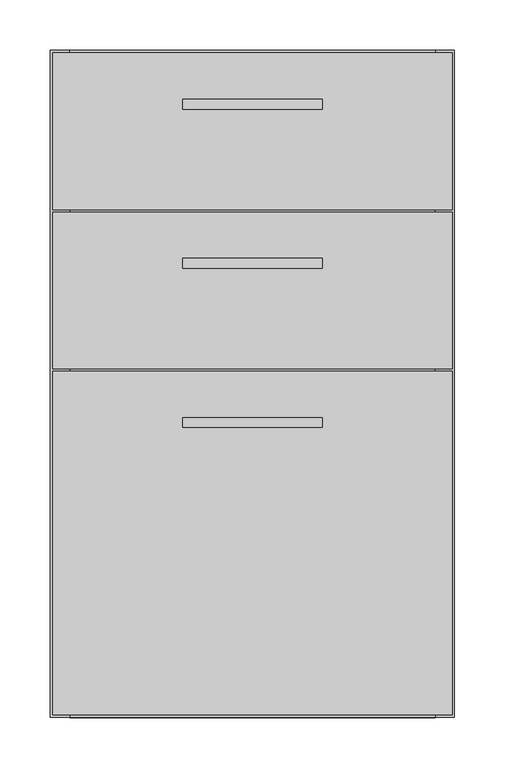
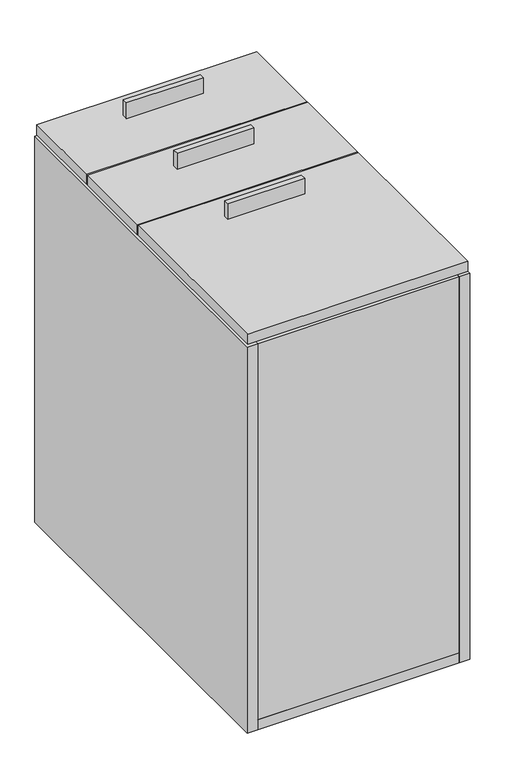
"""IFC4 building model written with IfcOpenShell, lengths in millimetres: proxy geometry, FOUNDATION^PEDESTAL_LETTER BBF 26x29.75D-SOLID ASSEMBLY."""

import ifcopenshell
import ifcopenshell.guid

model = None  # the IFC model being written
_history = None  # IfcOwnerHistory: only IFC2X3 demands one
_inside = {}  # id of a spatial element -> (the spatial element, [elements in it])
_under = {}  # id of a project, library or spatial element -> (it, [spatial elements below it])
_declared = {}  # id of a project -> (the project, [libraries it declares])
_typed = {}  # id of a type object -> (the type object, [elements of that type])
_made_of = {}  # id of a material, layer set ... -> (it, [elements and type objects made of it])


def new_model(schema):
    """Start an empty IFC model of exactly this schema.

    Asked for "IFC4X3", IfcOpenShell would pick the latest addendum, in which some entities
    have other attributes; the version numbers below select the first issue.
    IFC2X3 requires an IfcOwnerHistory on every rooted entity: one is made here for all.
    """
    global model, _history
    if schema == "IFC4X3":
        model = ifcopenshell.file(schema_version=(4, 3, 0, 0))
    else:
        model = ifcopenshell.file(schema=schema)
    _inside.clear()
    _under.clear()
    _declared.clear()
    _typed.clear()
    _made_of.clear()
    _history = None
    if model.schema == "IFC2X3":
        org = make("IfcOrganization", Name="unknown")
        user = make(
            "IfcPersonAndOrganization",
            ThePerson=make("IfcPerson", FamilyName="unknown"),
            TheOrganization=org,
        )
        app = make(
            "IfcApplication",
            ApplicationDeveloper=org,
            Version="unknown",
            ApplicationFullName="unknown",
            ApplicationIdentifier="unknown",
        )
        _history = make(
            "IfcOwnerHistory",
            OwningUser=user,
            OwningApplication=app,
            ChangeAction="ADDED",
            CreationDate=0,
        )
    return model


def make(cls, **values):
    """One entity of the class cls with the attributes given. An attribute that is None is left unset."""
    return model.create_entity(
        cls, **{name: value for name, value in values.items() if value is not None}
    )


def rooted(cls, **values):
    """An entity with a GlobalId (a new one), such as an element, a storey or a relation."""
    return make(cls, GlobalId=ifcopenshell.guid.new(), OwnerHistory=_history, **values)


def si_unit(unit_type, name, prefix=None):
    """IfcSIUnit, for example si_unit("LENGTHUNIT", "METRE", prefix="MILLI")."""
    return make("IfcSIUnit", UnitType=unit_type, Prefix=prefix, Name=name)


def assignment(units):
    """IfcUnitAssignment: the units of a project."""
    return None if units is None else make("IfcUnitAssignment", Units=units)


def point(xyz):
    """IfcCartesianPoint."""
    return None if xyz is None else make("IfcCartesianPoint", Coordinates=xyz)


def direction(xyz):
    """IfcDirection."""
    return None if xyz is None else make("IfcDirection", DirectionRatios=xyz)


def frame(location, z_axis=None, x_axis=None):
    """IfcAxis2Placement3D, a coordinate frame: its origin and axes. An axis left out is left unset."""
    return make(
        "IfcAxis2Placement3D",
        Location=point(location),
        Axis=direction(z_axis),
        RefDirection=direction(x_axis),
    )


def origin():
    """The frame at (0, 0, 0) with its axes left unset."""
    return frame((0.0, 0.0, 0.0))


def origin_with_axes():
    """The frame at (0, 0, 0) with the z axis (0, 0, 1) and the x axis (1, 0, 0) written out."""
    return frame((0.0, 0.0, 0.0), z_axis=(0.0, 0.0, 1.0), x_axis=(1.0, 0.0, 0.0))


def place(relative_to, where):
    """IfcLocalPlacement: puts the frame where relative to a parent placement (None: the world)."""
    return make(
        "IfcLocalPlacement", PlacementRelTo=relative_to, RelativePlacement=where
    )


def context(
    kind, dimensions, precision=None, world=None, true_north=None, identifier=None
):
    """IfcGeometricRepresentationContext, for example the 3D "Model" context."""
    return make(
        "IfcGeometricRepresentationContext",
        ContextIdentifier=identifier,
        ContextType=kind,
        CoordinateSpaceDimension=dimensions,
        Precision=precision,
        WorldCoordinateSystem=world,
        TrueNorth=true_north,
    )


def project(units=None, contexts=None):
    """IfcProject with its units and contexts."""
    return rooted(
        "IfcProject",
        Name="project",
        RepresentationContexts=contexts,
        UnitsInContext=assignment(units),
    )


def spatial(cls, under=None, at=None, **own):
    """A site, building, storey or space (cls), placed at a placement, below another one or the project."""
    s = rooted(cls, ObjectPlacement=at, **own)
    if under is not None:
        _under.setdefault(under.id(), (under, []))[1].append(s)
    return s


def polyline(points):
    """IfcPolyline through the points."""
    return make("IfcPolyline", Points=[point(p) for p in points])


def outline(outer, holes=None, kind="AREA"):
    """IfcArbitraryClosedProfileDef: a profile drawn as a closed curve; with holes, ...WithVoids."""
    if holes is None:
        return make("IfcArbitraryClosedProfileDef", ProfileType=kind, OuterCurve=outer)
    return make(
        "IfcArbitraryProfileDefWithVoids",
        ProfileType=kind,
        OuterCurve=outer,
        InnerCurves=holes,
    )


def extrude(swept, where, along, depth):
    """IfcExtrudedAreaSolid: the profile swept, set in the frame where, extruded along a direction by depth."""
    return make(
        "IfcExtrudedAreaSolid",
        SweptArea=swept,
        Position=where,
        ExtrudedDirection=direction(along),
        Depth=depth,
    )


def shape(context_of_items, identifier, shape_type, items):
    """IfcShapeRepresentation: the items that make up one representation, for example the "Body"."""
    return make(
        "IfcShapeRepresentation",
        ContextOfItems=context_of_items,
        RepresentationIdentifier=identifier,
        RepresentationType=shape_type,
        Items=items,
    )


def source(mapping_origin, context_of_items, identifier, shape_type, items):
    """IfcRepresentationMap: a shape defined once, which mapped items show again and again."""
    return make(
        "IfcRepresentationMap",
        MappingOrigin=mapping_origin,
        MappedRepresentation=shape(context_of_items, identifier, shape_type, items),
    )


def transform(
    local_origin,
    x_axis=None,
    y_axis=None,
    z_axis=None,
    scale=None,
    scale2=None,
    scale3=None,
    uniform=True,
):
    """IfcCartesianTransformationOperator3D, or its non-uniform kind. x_axis, y_axis, z_axis: its Axis1, 2, 3."""
    if uniform:
        return make(
            "IfcCartesianTransformationOperator3D",
            Axis1=direction(x_axis),
            Axis2=direction(y_axis),
            LocalOrigin=point(local_origin),
            Scale=scale,
            Axis3=direction(z_axis),
        )
    return make(
        "IfcCartesianTransformationOperator3DnonUniform",
        Axis1=direction(x_axis),
        Axis2=direction(y_axis),
        LocalOrigin=point(local_origin),
        Scale=scale,
        Axis3=direction(z_axis),
        Scale2=scale2,
        Scale3=scale3,
    )


def mapped(mapping_source, mapping_target):
    """IfcMappedItem: shows the shape of a source again, moved by a transform."""
    return make(
        "IfcMappedItem", MappingSource=mapping_source, MappingTarget=mapping_target
    )


def made_of(thing, what):
    """Note that an element or type object is made of a material, layer set ...; save() writes the relation."""
    if what is not None:
        _made_of.setdefault(what.id(), (what, []))[1].append(thing)
    return thing


def element(
    cls,
    number,
    at=None,
    inside=None,
    cuts=None,
    type_object=None,
    material=None,
    context=None,
    identifier="Body",
    shape_type=None,
    held_by="IfcProductDefinitionShape",
    body=None,
    shapes=None,
    **own,
):
    """One element of the class cls, such as IfcWall. Its Tag is "e" and its number.

    at: its placement. inside: the storey or other place that contains it. cuts: it is an
    opening in that element (IfcRelVoidsElement). A single representation is given by context,
    identifier, shape_type and body (its items); several are given by shapes. held_by: the class
    of the entity that holds the representations. save() writes the other relations.
    """
    e = rooted(cls, Tag="e%d" % number, ObjectPlacement=at, **own)
    if body is not None:
        shapes = [shape(context, identifier, shape_type, body)]
    if shapes is not None:
        e.Representation = make(held_by, Representations=shapes)
    if inside is not None:
        _inside.setdefault(inside.id(), (inside, []))[1].append(e)
    if cuts is not None:
        rooted(
            "IfcRelVoidsElement", RelatingBuildingElement=cuts, RelatedOpeningElement=e
        )
    if type_object is not None:
        _typed.setdefault(type_object.id(), (type_object, []))[1].append(e)
    return made_of(e, material)


def aggregate(whole, parts):
    """IfcRelAggregates: a whole, such as a stair, and the parts it consists of."""
    return rooted("IfcRelAggregates", RelatingObject=whole, RelatedObjects=parts)


def save(model, path):
    """Write the relations noted so far, then the file.

    IfcRelAggregates (storeys below a building ...), IfcRelContainedInSpatialStructure (elements
    in a storey), IfcRelDefinesByType, IfcRelAssociatesMaterial and IfcRelDeclares: one each for
    every whole, place, type object, material and project.
    """
    for whole, parts in _under.values():
        aggregate(whole, parts)
    for where, things in _inside.values():
        rooted(
            "IfcRelContainedInSpatialStructure",
            RelatedElements=things,
            RelatingStructure=where,
        )
    for kind, things in _typed.values():
        rooted("IfcRelDefinesByType", RelatedObjects=things, RelatingType=kind)
    for what, things in _made_of.values():
        rooted("IfcRelAssociatesMaterial", RelatedObjects=things, RelatingMaterial=what)
    for by, libraries in _declared.values():
        rooted("IfcRelDeclares", RelatingContext=by, RelatedDefinitions=libraries)
    model.write(path)


def generic_models_754e1a55(model_context):
    return source(origin(), model_context, "Body", "SweptSolid", [
        extrude(outline(polyline([(269.08125, 444.896875), (130.96875, 444.896875), (130.96875, 454.421875), (269.08125, 454.421875), (269.08125, 444.896875)])), frame((0.0, 0.0, 755.65), z_axis=(0.0, 0.0, 1.0), x_axis=(1.0, 0.0, 0.0)), (0.0, 0.0, 1.0), 30.1625),
        extrude(outline(polyline([(19.05, 641.35), (19.05, 660.4), (381.0, 660.4), (381.0, 641.35), (19.05, 641.35)])), frame((0.0, 0.0, 19.05), z_axis=(0.0, 0.0, 1.0), x_axis=(1.0, 0.0, 0.0)), (0.0, 0.0, 1.0), 714.375),
        extrude(outline(polyline([(19.05, 660.4), (19.05, 0.0), (0.0, 0.0), (0.0, 660.4), (19.05, 660.4)])), origin_with_axes(), (0.0, 0.0, 1.0), 733.425),
        extrude(outline(polyline([(397.66875, 502.840625), (2.38125, 502.840625), (2.38125, 658.01875), (397.66875, 658.01875), (397.66875, 502.840625)])), frame((0.0, 0.0, 736.6), z_axis=(0.0, 0.0, 1.0), x_axis=(1.0, 0.0, 0.0)), (0.0, 0.0, 1.0), 19.05),
        extrude(outline(polyline([(2.38125, 500.459375), (397.66875, 500.459375), (397.66875, 345.28125), (2.38125, 345.28125), (2.38125, 500.459375)])), frame((0.0, 0.0, 736.6), z_axis=(0.0, 0.0, 1.0), x_axis=(1.0, 0.0, 0.0)), (0.0, 0.0, 1.0), 19.05),
        extrude(outline(polyline([(381.0, 25.4), (381.0, 0.0), (19.05, 0.0), (19.05, 25.4), (381.0, 25.4)])), frame((0.0, 0.0, 19.05), z_axis=(0.0, 0.0, 1.0), x_axis=(1.0, 0.0, 0.0)), (0.0, 0.0, 1.0), 714.375),
        extrude(outline(polyline([(2.38125, 2.38125), (2.38125, 342.9), (397.66875, 342.9), (397.66875, 2.38125), (2.38125, 2.38125)])), frame((0.0, 0.0, 736.6), z_axis=(0.0, 0.0, 1.0), x_axis=(1.0, 0.0, 0.0)), (0.0, 0.0, 1.0), 19.05),
        extrude(outline(polyline([(381.0, 660.4), (381.0, 0.0), (19.05, 0.0), (19.05, 660.4), (381.0, 660.4)])), origin_with_axes(), (0.0, 0.0, 1.0), 19.05),
        extrude(outline(polyline([(381.0, 0.0), (381.0, 660.4), (400.05, 660.4), (400.05, 0.0), (381.0, 0.0)])), origin_with_axes(), (0.0, 0.0, 1.0), 733.425),
        extrude(outline(polyline([(269.08125, 602.45625), (130.96875, 602.45625), (130.96875, 611.98125), (269.08125, 611.98125), (269.08125, 602.45625)])), frame((0.0, 0.0, 755.65), z_axis=(0.0, 0.0, 1.0), x_axis=(1.0, 0.0, 0.0)), (0.0, 0.0, 1.0), 30.1625),
        extrude(outline(polyline([(269.08125, 287.3375), (130.96875, 287.3375), (130.96875, 296.8625), (269.08125, 296.8625), (269.08125, 287.3375)])), frame((0.0, 0.0, 755.65), z_axis=(0.0, 0.0, 1.0), x_axis=(1.0, 0.0, 0.0)), (0.0, 0.0, 1.0), 30.1625),
    ])


if __name__ == "__main__":
    model = new_model("IFC4")
    model_context = context("Model", 3, world=origin())
    ifc_project = project(units=[si_unit("LENGTHUNIT", "METRE", prefix="MILLI")], contexts=[model_context])
    site = spatial("IfcSite", under=ifc_project)
    building = spatial("IfcBuilding", under=site)
    placement = place(None, origin())
    generic_models_shape = generic_models_754e1a55(model_context)
    element("IfcBuildingElementProxy", 1, Name="FOUNDATION^PEDESTAL_LETTER BBF 26x29.75D-SOLID ASSEMBLY", ObjectType="FOUNDATION^PEDESTAL_LETTER BBF 26x29.75D-SOLID ASSEMBLY", at=placement, inside=building, context=model_context, shape_type="MappedRepresentation", body=[
        mapped(generic_models_shape, transform((0.0, 0.0, 0.0), x_axis=(1.0, 0.0, 0.0), y_axis=(0.0, 1.0, 0.0), z_axis=(0.0, 0.0, 1.0))),
    ])
    save(model, "model.ifc")
